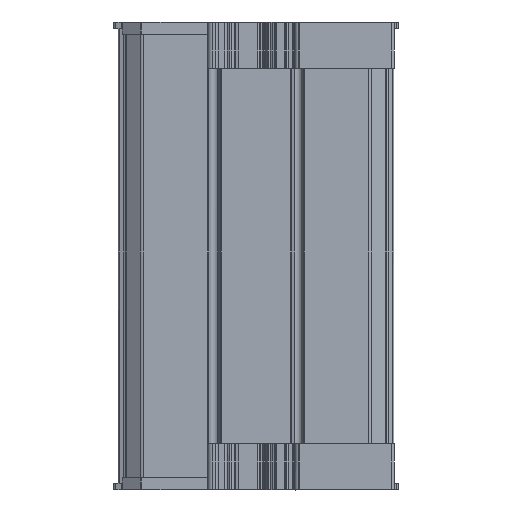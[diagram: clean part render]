
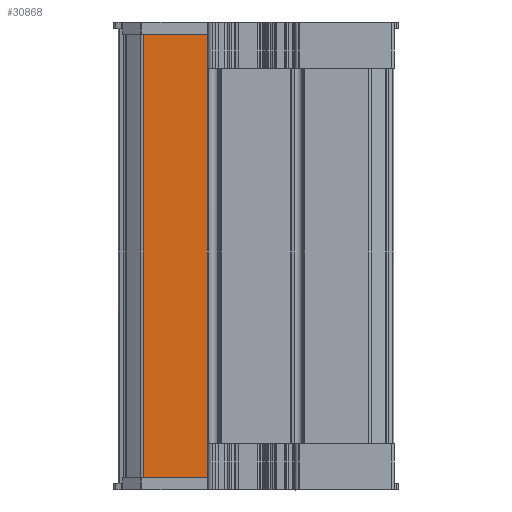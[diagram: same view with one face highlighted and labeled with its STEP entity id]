
A CAD part, front view. The second image highlights one B-rep face of the part: STEP entity #30868.
In plain terms, the highlighted planar face has unit normal (0, -1, 0).
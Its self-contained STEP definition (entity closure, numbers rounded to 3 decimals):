
#6238 = LINE ( 'NONE', #64128, #129000 ) ;
#11045 = DIRECTION ( 'NONE',  ( 0., 1., 0. ) ) ;
#19120 = CARTESIAN_POINT ( 'NONE',  ( 38.343, 13.775, 29.8 ) ) ;
#19536 = CARTESIAN_POINT ( 'NONE',  ( 29.178, 13.775, -200. ) ) ;
#23651 = CARTESIAN_POINT ( 'NONE',  ( 10.849, 13.775, -200. ) ) ;
#24560 = EDGE_LOOP ( 'NONE', ( #141558, #124663, #28373, #116093 ) ) ;
#28373 = ORIENTED_EDGE ( 'NONE', *, *, #139352, .F. ) ;
#30868 = ADVANCED_FACE ( 'NONE', ( #91754 ), #33112, .F. ) ;
#31758 = EDGE_CURVE ( 'NONE', #74519, #149241, #88945, .T. ) ;
#33112 = PLANE ( 'NONE',  #84414 ) ;
#36459 = CARTESIAN_POINT ( 'NONE',  ( 38.343, 13.775, -200. ) ) ;
#38496 = EDGE_CURVE ( 'NONE', #63747, #149241, #6238, .T. ) ;
#49100 = CARTESIAN_POINT ( 'NONE',  ( 10.849, 13.775, -4. ) ) ;
#52669 = DIRECTION ( 'NONE',  ( 0., 0., 1. ) ) ;
#60947 = VERTEX_POINT ( 'NONE', #36459 ) ;
#63747 = VERTEX_POINT ( 'NONE', #23651 ) ;
#64128 = CARTESIAN_POINT ( 'NONE',  ( 10.849, 13.775, -70.2 ) ) ;
#65268 = CARTESIAN_POINT ( 'NONE',  ( 38.343, 13.775, -200. ) ) ;
#67405 = DIRECTION ( 'NONE',  ( 0., 0., 1. ) ) ;
#69734 = CARTESIAN_POINT ( 'NONE',  ( 38.343, 13.775, -4. ) ) ;
#74519 = VERTEX_POINT ( 'NONE', #121082 ) ;
#84414 = AXIS2_PLACEMENT_3D ( 'NONE', #139724, #11045, #67405 ) ;
#87658 = EDGE_CURVE ( 'NONE', #60947, #63747, #101195, .T. ) ;
#88945 = B_SPLINE_CURVE_WITH_KNOTS ( 'NONE', 3,
 ( #69734, #119190, #95551, #49100 ),
 .UNSPECIFIED., .F., .F.,
 ( 4, 4 ),
 ( 0., 1. ),
 .UNSPECIFIED. ) ;
#91413 = DIRECTION ( 'NONE',  ( 0., 0., -1. ) ) ;
#91754 = FACE_OUTER_BOUND ( 'NONE', #24560, .T. ) ;
#95551 = CARTESIAN_POINT ( 'NONE',  ( 20.014, 13.775, -4. ) ) ;
#101195 = B_SPLINE_CURVE_WITH_KNOTS ( 'NONE', 3,
 ( #65268, #19536, #110232, #135308 ),
 .UNSPECIFIED., .F., .F.,
 ( 4, 4 ),
 ( 0., 1. ),
 .UNSPECIFIED. ) ;
#110232 = CARTESIAN_POINT ( 'NONE',  ( 20.014, 13.775, -200. ) ) ;
#116093 = ORIENTED_EDGE ( 'NONE', *, *, #31758, .T. ) ;
#117453 = CARTESIAN_POINT ( 'NONE',  ( 10.849, 13.775, -4. ) ) ;
#119190 = CARTESIAN_POINT ( 'NONE',  ( 29.178, 13.775, -4. ) ) ;
#121082 = CARTESIAN_POINT ( 'NONE',  ( 38.343, 13.775, -4. ) ) ;
#123484 = LINE ( 'NONE', #19120, #139627 ) ;
#124663 = ORIENTED_EDGE ( 'NONE', *, *, #87658, .F. ) ;
#129000 = VECTOR ( 'NONE', #52669, 1000. ) ;
#135308 = CARTESIAN_POINT ( 'NONE',  ( 10.849, 13.775, -200. ) ) ;
#139352 = EDGE_CURVE ( 'NONE', #74519, #60947, #123484, .T. ) ;
#139627 = VECTOR ( 'NONE', #91413, 1000. ) ;
#139724 = CARTESIAN_POINT ( 'NONE',  ( 24.596, 13.775, -70.2 ) ) ;
#141558 = ORIENTED_EDGE ( 'NONE', *, *, #38496, .F. ) ;
#149241 = VERTEX_POINT ( 'NONE', #117453 ) ;
